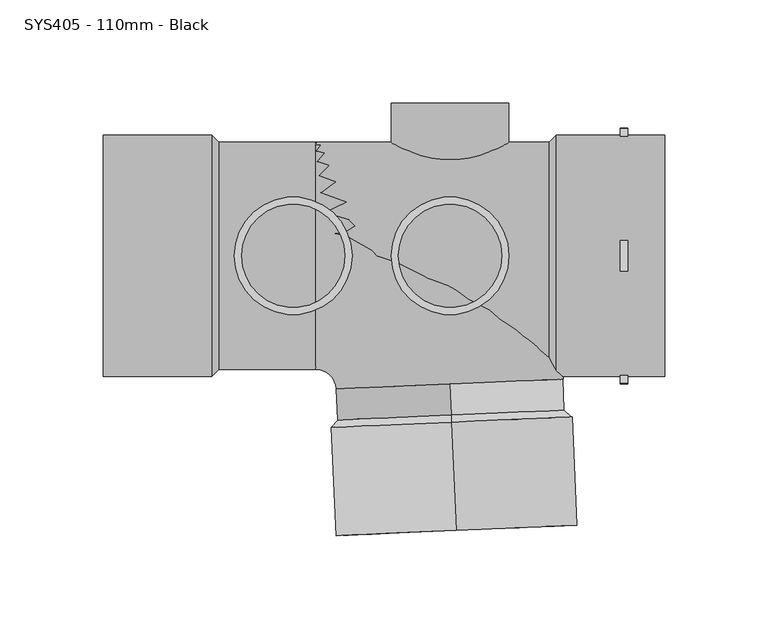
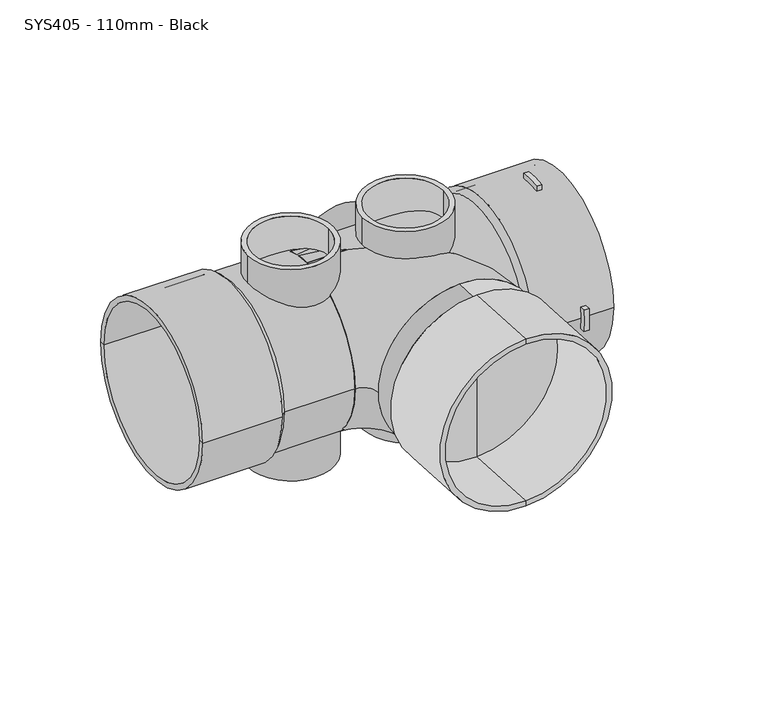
"""IFC4 building model written with IfcOpenShell, lengths in millimetres: pipe fitting geometry, MarleyPlumbingAndDrainage_PipeFitting_FiveBossBranch87-5 : SYS405 - 110mm - Black."""

from ifc_helpers import new_model, si_unit, point, frame, frame_2d, origin, origin_2d, place, context, project, spatial, polyline, circle_curve, ellipse_curve, trimmed, segment, composite_curve, outline, extrude, source, transform, mapped, element, save
from ifc_brep_helpers import plane_surface, cylinder_surface, revolved_surface, advanced_brep


def sys405_110mm_black_4771365e(model_context):
    return source(origin(), model_context, "Body", "SolidModel", [
        advanced_brep(
        [(-166.6907513, -58.5, 0.0), (-166.6907513, 58.5, 0.0), (-114.1907513, 58.5, 0.0), (-114.1907513, -58.5, 0.0), (-166.6907513, -55.0, 0.0), (-166.6907513, 55.0, 0.0), (-114.1907513, -55.0, 0.0), (-114.1907513, 55.0, 0.0), (-114.1907513, 0.0, 0.0), (-110.6907513, -55.0, 0.0), (-110.6907513, 55.0, 0.0), (-110.6907513, 0.0, 0.0)],
        [
            (0, 1, circle_curve(frame((-166.6907513, 0.0, 0.0), z_axis=(1.0, 0.0, 0.0), x_axis=(0.0, 1.0, 0.0)), 58.5)),
            (1, 2),
            (2, 3, circle_curve(frame((-114.1907513, 0.0, 0.0), z_axis=(-1.0, 0.0, 0.0), x_axis=(0.0, 1.0, 0.0)), 58.5)),
            (3, 0),
            (1, 0, circle_curve(frame((-166.6907513, 0.0, 0.0), z_axis=(1.0, 0.0, 0.0), x_axis=(0.0, 1.0, 0.0)), 58.5)),
            (3, 2, circle_curve(frame((-114.1907513, 0.0, 0.0), z_axis=(-1.0, 0.0, 0.0), x_axis=(0.0, 1.0, 0.0)), 58.5)),
            (4, 5, circle_curve(frame((-166.6907513, 0.0, 0.0), z_axis=(1.0, 0.0, 0.0), x_axis=(0.0, 1.0, 0.0)), 55.0)),
            (5, 1),
            (0, 4),
            (5, 4, circle_curve(frame((-166.6907513, 0.0, 0.0), z_axis=(1.0, 0.0, 0.0), x_axis=(0.0, 1.0, 0.0)), 55.0)),
            (6, 7, circle_curve(frame((-114.1907513, 0.0, 0.0), z_axis=(1.0, 0.0, 0.0), x_axis=(0.0, 1.0, 0.0)), 55.0)),
            (7, 5),
            (4, 6),
            (7, 6, circle_curve(frame((-114.1907513, 0.0, 0.0), z_axis=(1.0, 0.0, 0.0), x_axis=(0.0, 1.0, 0.0)), 55.0)),
            (8, 7),
            (6, 8),
            (9, 10, circle_curve(frame((-110.6907513, 0.0, 0.0), z_axis=(1.0, 0.0, 0.0), x_axis=(0.0, 1.0, 0.0)), 55.0)),
            (10, 11),
            (11, 9),
            (10, 9, circle_curve(frame((-110.6907513, 0.0, 0.0), z_axis=(1.0, 0.0, 0.0), x_axis=(0.0, 1.0, 0.0)), 55.0)),
            (2, 10),
            (9, 3),
        ],
        [
            cylinder_surface(frame((1970.8760368, 0.0, 0.0), z_axis=(-1.0, 0.0, 0.0), x_axis=(0.0, 1.0, 0.0)), 58.5),
            plane_surface(frame((-166.6907513, 0.0, 0.0), z_axis=(-1.0, 0.0, 0.0), x_axis=(0.0, 1.0, 0.0))),
            revolved_surface(polyline([(-166.69075129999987, 55.0, 0.0), (-114.19075129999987, 55.0, 0.0)]), (1970.8760368, 0.0, 0.0), (-1.0, 0.0, 0.0)),
            plane_surface(frame((-114.1907513, 0.0, 0.0), z_axis=(-1.0, 0.0, 0.0), x_axis=(0.0, 1.0, 0.0))),
            plane_surface(frame((-110.6907513, 0.0, 0.0), z_axis=(1.0, 0.0, 0.0), x_axis=(0.0, 1.0, 0.0))),
            revolved_surface(polyline([(-110.6907513, 55.0, 0.0), (-114.1907513, 58.5, 0.0)]), (1970.8760368, 0.0, 0.0), (-1.0, 0.0, 0.0)),
        ],
        [
            (0, [[1, 2, 3, 4]]),
            (0, [[5, -4, 6, -2]]),
            (1, [[7, 8, -1, 9]]),
            (1, [[10, -9, -5, -8]]),
            (2, [[11, 12, -7, 13]]),
            (2, [[14, -13, -10, -12]]),
            (3, [[15, -11, 16]]),
            (3, [[-16, -14, -15]]),
            (4, [[17, 18, 19]]),
            (4, [[20, -19, -18]]),
            (5, [[-3, 21, -17, 22]]),
            (5, [[-6, -22, -20, -21]]),
        ],
    ),
        advanced_brep(
        [(1.1473831, -62.1647398, 55.0), (1.1473831, -62.1647398, -55.0), (1.8016739, -77.1504631, -55.0), (1.8016739, -77.1504631, 55.0), (1.1473831, -62.1647398, 0.0), (1.8016739, -77.1504631, 0.0)],
        [
            (0, 1, circle_curve(frame((1.1473831, -62.1647398, 0.0), z_axis=(0.04361938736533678, -0.9990482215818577, 0.0), x_axis=(0.0, 0.0, -1.0000000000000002)), 55.0)),
            (1, 2),
            (2, 3, circle_curve(frame((1.8016739, -77.1504631, 0.0), z_axis=(-0.04361938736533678, 0.9990482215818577, 0.0), x_axis=(0.0, 0.0, -1.0000000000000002)), 55.0)),
            (3, 0),
            (1, 0, circle_curve(frame((1.1473831, -62.1647398, 0.0), z_axis=(0.04361938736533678, -0.9990482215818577, 0.0), x_axis=(0.0, 0.0, -1.0000000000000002)), 55.0)),
            (3, 2, circle_curve(frame((1.8016739, -77.1504631, 0.0), z_axis=(-0.04361938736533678, 0.9990482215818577, 0.0), x_axis=(0.0, 0.0, -1.0000000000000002)), 55.0)),
            (4, 1),
            (0, 4),
            (2, 5),
            (5, 3),
        ],
        [
            cylinder_surface(frame((-1.0631654, -11.5348565, 0.0), z_axis=(-0.04361938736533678, 0.9990482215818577, 0.0), x_axis=(0.0, 0.0, -1.0000000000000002)), 55.0),
            plane_surface(frame((1.1473831, -62.1647398, 0.0), z_axis=(-0.04361938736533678, 0.9990482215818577, 0.0), x_axis=(0.0, 0.0, -1.0))),
            plane_surface(frame((1.8016739, -77.1504631, 0.0), z_axis=(0.04361938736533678, -0.9990482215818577, 0.0), x_axis=(0.0, 0.0, -1.0))),
        ],
        [
            (0, [[1, 2, 3, 4]]),
            (0, [[5, -4, 6, -2]]),
            (1, [[7, -1, 8]]),
            (1, [[-8, -5, -7]]),
            (2, [[-3, 9, 10]]),
            (2, [[-6, -10, -9]]),
        ],
    ),
        advanced_brep(
        [(4.2443596, -133.0971636, -55.0), (4.2443596, -133.0971636, 55.0), (4.2443596, -133.0971636, 58.5), (4.2443596, -133.0971636, -58.5), (1.9543417, -80.6471319, 58.5), (1.9543417, -80.6471319, -58.5), (1.8016739, -77.1504631, 54.9860468), (1.8016739, -77.1504631, -54.9860468), (1.9543417, -80.6471319, -55.0), (1.9543417, -80.6471319, 55.0), (1.9543417, -80.6471319, 0.0), (1.8016739, -77.1504631, 0.0)],
        [
            (0, 1, circle_curve(frame((4.2443596, -133.0971636, 0.0), z_axis=(-0.04361938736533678, 0.9990482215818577, 0.0), x_axis=(0.0, 0.0, 1.0000000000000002)), 55.0)),
            (1, 2),
            (2, 3, circle_curve(frame((4.2443596, -133.0971636, 0.0), z_axis=(0.04361938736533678, -0.9990482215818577, 0.0), x_axis=(0.0, 0.0, 1.0000000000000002)), 58.5)),
            (3, 0),
            (1, 0, circle_curve(frame((4.2443596, -133.0971636, 0.0), z_axis=(-0.04361938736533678, 0.9990482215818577, 0.0), x_axis=(0.0, 0.0, 1.0000000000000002)), 55.0)),
            (3, 2, circle_curve(frame((4.2443596, -133.0971636, 0.0), z_axis=(0.04361938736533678, -0.9990482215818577, 0.0), x_axis=(0.0, 0.0, 1.0000000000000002)), 58.5)),
            (2, 4),
            (4, 5, circle_curve(frame((1.9543417, -80.6471319, 0.0), z_axis=(0.04361938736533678, -0.9990482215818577, 0.0), x_axis=(0.0, 0.0, 1.0000000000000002)), 58.5)),
            (5, 3),
            (5, 4, circle_curve(frame((1.9543417, -80.6471319, 0.0), z_axis=(0.04361938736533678, -0.9990482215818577, 0.0), x_axis=(0.0, 0.0, 1.0000000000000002)), 58.5)),
            (4, 6),
            (6, 7, circle_curve(frame((1.8016739, -77.1504631, 0.0), z_axis=(0.04361938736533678, -0.9990482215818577, 0.0), x_axis=(0.0, 0.0, 1.0000000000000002)), 54.9860468)),
            (7, 5),
            (7, 6, circle_curve(frame((1.8016739, -77.1504631, 0.0), z_axis=(0.04361938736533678, -0.9990482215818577, 0.0), x_axis=(0.0, 0.0, 1.0000000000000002)), 54.9860468)),
            (8, 9, circle_curve(frame((1.9543417, -80.6471319, 0.0), z_axis=(-0.04361938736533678, 0.9990482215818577, 0.0), x_axis=(0.0, 0.0, 1.0000000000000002)), 55.0)),
            (9, 1),
            (0, 8),
            (9, 8, circle_curve(frame((1.9543417, -80.6471319, 0.0), z_axis=(-0.04361938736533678, 0.9990482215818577, 0.0), x_axis=(0.0, 0.0, 1.0000000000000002)), 55.0)),
            (10, 9),
            (8, 10),
            (6, 11),
            (11, 7),
        ],
        [
            plane_surface(frame((4.2443596, -133.0971636, 0.0), z_axis=(0.04361938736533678, -0.9990482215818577, 0.0), x_axis=(0.0, 0.0, 1.0))),
            cylinder_surface(frame((-1.593666, 0.6156066, 0.0), z_axis=(0.04361938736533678, -0.9990482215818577, 0.0), x_axis=(0.0, 0.0, 1.0000000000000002)), 58.5),
            revolved_surface(polyline([(1.8016739, -77.1504631, 54.9860468), (1.9543417, -80.6471319, 58.5)]), (-1.593666, 0.6156066, 0.0), (0.04361938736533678, -0.9990482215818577, 0.0)),
            revolved_surface(polyline([(4.244359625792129, -133.09716359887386, 55.000000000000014), (1.954341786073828, -80.64713189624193, 55.000000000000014)]), (-1.593666, 0.6156066, 0.0), (0.04361938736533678, -0.9990482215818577, 0.0)),
            plane_surface(frame((1.9543417, -80.6471319, 0.0), z_axis=(0.04361938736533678, -0.9990482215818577, 0.0), x_axis=(0.0, 0.0, 1.0))),
            plane_surface(frame((1.8016739, -77.1504631, 0.0), z_axis=(-0.04361938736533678, 0.9990482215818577, 0.0), x_axis=(0.0, 0.0, 1.0))),
        ],
        [
            (0, [[1, 2, 3, 4]]),
            (0, [[5, -4, 6, -2]]),
            (1, [[-3, 7, 8, 9]]),
            (1, [[-6, -9, 10, -7]]),
            (2, [[-8, 11, 12, 13]]),
            (2, [[-10, -13, 14, -11]]),
            (3, [[15, 16, -1, 17]]),
            (3, [[18, -17, -5, -16]]),
            (4, [[19, -15, 20]]),
            (4, [[-20, -18, -19]]),
            (5, [[-12, 21, 22]]),
            (5, [[-14, -22, -21]]),
        ],
    ),
        advanced_brep(
        [(-63.7907513, -55.0, 0.0), (-63.7907513, 55.0, 0.0), (-53.8002691, -64.5638061, 0.0), (56.0950353, -59.7656735, 0.0)],
        [
            (0, 1, circle_curve(frame((-63.7907513, 0.0, 0.0), z_axis=(-1.0, 0.0, 0.0), x_axis=(0.0, 1.0, 0.0)), 55.0)),
            (1, 0, circle_curve(frame((-63.7907513, 0.0, 0.0), z_axis=(-1.0, 0.0, 0.0), x_axis=(0.0, 1.0, 0.0)), 55.0)),
            (2, 3, circle_curve(frame((1.1473831, -62.1647398, 0.0), z_axis=(0.0436193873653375, -0.9990482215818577, 0.0), x_axis=(0.9990482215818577, 0.0436193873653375, 0.0)), 55.0)),
            (3, 2, circle_curve(frame((1.1473831, -62.1647398, 0.0), z_axis=(0.0436193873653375, -0.9990482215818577, 0.0), x_axis=(0.9990482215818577, 0.0436193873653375, 0.0)), 55.0)),
            (3, 1, circle_curve(frame((-63.7907513, -65.0, 0.0), z_axis=(0.0, 0.0, 1.0), x_axis=(0.0, 1.0, 0.0)), 120.0)),
            (0, 2, circle_curve(frame((-63.7907513, -65.0, 0.0), z_axis=(0.0, 0.0, -1.0), x_axis=(0.0, 1.0, 0.0)), 10.0)),
        ],
        [
            plane_surface(frame((-63.7907513, 0.0, 0.0), z_axis=(-1.0, 0.0, 0.0), x_axis=(0.0, 0.0, 1.0))),
            plane_surface(frame((1.1473831, -62.1647398, 0.0), z_axis=(0.0436193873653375, -0.9990482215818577, 0.0), x_axis=(0.0, 0.0, 1.0))),
            revolved_surface(trimmed(ellipse_curve(frame((-63.7907513, 0.0, 0.0), z_axis=(-1.0, 0.0, 0.0), x_axis=(0.0, 1.0, 0.0)), 55.0, 55.0), [point((-63.7907513, -55.0, 0.0))], [point((-63.7907513, 55.0, 0.0))], True, "CARTESIAN"), (-63.7907513, -65.0, 0.0), (0.0, 0.0, -1.0)),
            revolved_surface(trimmed(ellipse_curve(frame((-63.7907513, 0.0, 0.0), z_axis=(-1.0, 0.0, 0.0), x_axis=(0.0, 1.0, 0.0)), 55.0, 55.0), [point((-63.7907513, 55.0, 0.0))], [point((-63.7907513, -55.0, 0.0))], True, "CARTESIAN"), (-63.7907513, -65.0, 0.0), (0.0, 0.0, -1.0)),
        ],
        [
            (0, [[1, 2]]),
            (1, [[3, 4]]),
            (2, [[5, -1, 6, -4]]),
            (3, [[-6, -2, -5, -3]]),
        ],
    ),
        extrude(outline(composite_curve([segment(trimmed(circle_curve(frame_2d((0.0, 1.3092487)), 28.5), [point((0.0, -27.1907513))], [point((0.0, 29.8092487))], False, "CARTESIAN"), True, "CONTINUOUS"), segment(trimmed(circle_curve(frame_2d((0.0, 1.3092487)), 28.5), [point((0.0, 29.8092487))], [point((0.0, -27.1907513))], False, "CARTESIAN"), True, "CONTINUOUS")], self_intersect=False), holes=[composite_curve([segment(trimmed(circle_curve(frame_2d((0.0, 1.3092487)), 25.0), [point((0.0, -23.6907513))], [point((0.0, 26.3092487))], True, "CARTESIAN"), True, "CONTINUOUS"), segment(trimmed(circle_curve(frame_2d((0.0, 1.3092487)), 25.0), [point((0.0, 26.3092487))], [point((0.0, -23.6907513))], True, "CARTESIAN"), True, "CONTINUOUS")], self_intersect=False)]), frame((0.0, 0.0, 0.0), z_axis=(0.0, 1.0, 0.0), x_axis=(0.0, 0.0, 1.0)), (0.0, 0.0, 1.0), 74.0),
        extrude(outline(composite_curve([segment(polyline([(-58.0172388, -7.5), (-61.5446992, -7.5)]), True, "CONTINUOUS"), segment(trimmed(circle_curve(origin_2d(), 62.0), [point((-61.5446992, -7.5))], [point((-61.5446992, 7.5))], False, "CARTESIAN"), True, "CONTINUOUS"), segment(polyline([(-61.5446992, 7.5), (-58.0172388, 7.5)]), True, "CONTINUOUS"), segment(trimmed(circle_curve(origin_2d(), 58.5), [point((-58.0172388, 7.5))], [point((-58.0172388, -7.5))], True, "CARTESIAN"), True, "CONTINUOUS")], self_intersect=False)), frame((83.8092487, 0.0, 0.0), z_axis=(1.0, 0.0, 0.0), x_axis=(0.0, 1.0, 0.0)), (0.0, 0.0, 1.0), 3.5),
        extrude(outline(composite_curve([segment(trimmed(circle_curve(origin_2d(), 58.5), [point((7.5, 58.0172388))], [point((-7.5, 58.0172388))], True, "CARTESIAN"), True, "CONTINUOUS"), segment(polyline([(-7.5, 58.0172388), (-7.5, 61.5446992)]), True, "CONTINUOUS"), segment(trimmed(circle_curve(origin_2d(), 62.0), [point((-7.5, 61.5446992))], [point((7.5, 61.5446992))], False, "CARTESIAN"), True, "CONTINUOUS"), segment(polyline([(7.5, 61.5446992), (7.5, 58.0172388)]), True, "CONTINUOUS")], self_intersect=False)), frame((83.8092487, 0.0, 0.0), z_axis=(1.0, 0.0, 0.0), x_axis=(0.0, 1.0, 0.0)), (0.0, 0.0, 1.0), 3.5),
        extrude(outline(composite_curve([segment(polyline([(58.0172388, 7.5), (61.5446992, 7.5)]), True, "CONTINUOUS"), segment(trimmed(circle_curve(origin_2d(), 62.0), [point((61.5446992, 7.5))], [point((61.5446992, -7.5))], False, "CARTESIAN"), True, "CONTINUOUS"), segment(polyline([(61.5446992, -7.5), (58.0172388, -7.5)]), True, "CONTINUOUS"), segment(trimmed(circle_curve(origin_2d(), 58.5), [point((58.0172388, -7.5))], [point((58.0172388, 7.5))], True, "CARTESIAN"), True, "CONTINUOUS")], self_intersect=False)), frame((83.8092487, 0.0, 0.0), z_axis=(1.0, 0.0, 0.0), x_axis=(0.0, 1.0, 0.0)), (0.0, 0.0, 1.0), 3.5),
        extrude(outline(composite_curve([segment(polyline([(-7.5, -61.5446992), (-7.5, -58.0172388)]), True, "CONTINUOUS"), segment(trimmed(circle_curve(origin_2d(), 58.5), [point((-7.5, -58.0172388))], [point((7.5, -58.0172388))], True, "CARTESIAN"), True, "CONTINUOUS"), segment(polyline([(7.5, -58.0172388), (7.5, -61.5446992)]), True, "CONTINUOUS"), segment(trimmed(circle_curve(origin_2d(), 62.0), [point((7.5, -61.5446992))], [point((-7.5, -61.5446992))], False, "CARTESIAN"), True, "CONTINUOUS")], self_intersect=False)), frame((83.8092487, 0.0, 0.0), z_axis=(1.0, 0.0, 0.0), x_axis=(0.0, 1.0, 0.0)), (0.0, 0.0, 1.0), 3.5),
        extrude(outline(composite_curve([segment(trimmed(circle_curve(frame_2d((1.3092487, 0.0)), 28.5), [point((-27.1907513, 0.0))], [point((29.8092487, 0.0))], False, "CARTESIAN"), True, "CONTINUOUS"), segment(trimmed(circle_curve(frame_2d((1.3092487, 0.0)), 28.5), [point((29.8092487, 0.0))], [point((-27.1907513, 0.0))], False, "CARTESIAN"), True, "CONTINUOUS")], self_intersect=False), holes=[composite_curve([segment(trimmed(circle_curve(frame_2d((1.3092487, 0.0)), 25.0), [point((-23.6907513, 0.0))], [point((26.3092487, 0.0))], True, "CARTESIAN"), True, "CONTINUOUS"), segment(trimmed(circle_curve(frame_2d((1.3092487, 0.0)), 25.0), [point((26.3092487, 0.0))], [point((-23.6907513, 0.0))], True, "CARTESIAN"), True, "CONTINUOUS")], self_intersect=False)]), frame((0.0, 0.0, -74.0), z_axis=(0.0, 0.0, 1.0), x_axis=(1.0, 0.0, 0.0)), (0.0, 0.0, 1.0), 148.0),
        extrude(outline(composite_curve([segment(trimmed(circle_curve(frame_2d((-74.6907513, 0.0)), 28.5), [point((-103.1907513, 0.0))], [point((-46.1907513, 0.0))], False, "CARTESIAN"), True, "CONTINUOUS"), segment(trimmed(circle_curve(frame_2d((-74.6907513, 0.0)), 28.5), [point((-46.1907513, 0.0))], [point((-103.1907513, 0.0))], False, "CARTESIAN"), True, "CONTINUOUS")], self_intersect=False), holes=[composite_curve([segment(trimmed(circle_curve(frame_2d((-74.6907513, 0.0)), 25.0), [point((-99.6907513, 0.0))], [point((-49.6907513, 0.0))], True, "CARTESIAN"), True, "CONTINUOUS"), segment(trimmed(circle_curve(frame_2d((-74.6907513, 0.0)), 25.0), [point((-49.6907513, 0.0))], [point((-99.6907513, 0.0))], True, "CARTESIAN"), True, "CONTINUOUS")], self_intersect=False)]), frame((0.0, 0.0, -74.0), z_axis=(0.0, 0.0, 1.0), x_axis=(1.0, 0.0, 0.0)), (0.0, 0.0, 1.0), 148.0),
        advanced_brep(
        [(52.8092487, -55.0, 0.0), (52.8092487, 55.0, 0.0), (52.8092487, 0.0, 0.0), (105.3092487, -55.0, 0.0), (105.3092487, 55.0, 0.0), (105.3092487, -58.5, 0.0), (105.3092487, 58.5, 0.0), (52.8092487, -58.5, 0.0), (52.8092487, 58.5, 0.0), (49.3092487, -55.0, 0.0), (49.3092487, 55.0, 0.0), (-114.1907513, -55.0, 0.0), (-114.1907513, 55.0, 0.0), (-114.1907513, 0.0, 0.0)],
        [
            (0, 1, circle_curve(frame((52.8092487, 0.0, 0.0), z_axis=(1.0, 0.0, 0.0), x_axis=(0.0, 1.0, 0.0)), 55.0)),
            (1, 2),
            (2, 0),
            (1, 0, circle_curve(frame((52.8092487, 0.0, 0.0), z_axis=(1.0, 0.0, 0.0), x_axis=(0.0, 1.0, 0.0)), 55.0)),
            (3, 4, circle_curve(frame((105.3092487, 0.0, 0.0), z_axis=(1.0, 0.0, 0.0), x_axis=(0.0, 1.0, 0.0)), 55.0)),
            (4, 1),
            (0, 3),
            (4, 3, circle_curve(frame((105.3092487, 0.0, 0.0), z_axis=(1.0, 0.0, 0.0), x_axis=(0.0, 1.0, 0.0)), 55.0)),
            (5, 6, circle_curve(frame((105.3092487, 0.0, 0.0), z_axis=(1.0, 0.0, 0.0), x_axis=(0.0, 1.0, 0.0)), 58.5)),
            (6, 4),
            (3, 5),
            (6, 5, circle_curve(frame((105.3092487, 0.0, 0.0), z_axis=(1.0, 0.0, 0.0), x_axis=(0.0, 1.0, 0.0)), 58.5)),
            (7, 8, circle_curve(frame((52.8092487, 0.0, 0.0), z_axis=(1.0, 0.0, 0.0), x_axis=(0.0, 1.0, 0.0)), 58.5)),
            (8, 6),
            (5, 7),
            (8, 7, circle_curve(frame((52.8092487, 0.0, 0.0), z_axis=(1.0, 0.0, 0.0), x_axis=(0.0, 1.0, 0.0)), 58.5)),
            (9, 10, circle_curve(frame((49.3092487, 0.0, 0.0), z_axis=(1.0, 0.0, 0.0), x_axis=(0.0, 1.0, 0.0)), 55.0)),
            (10, 8),
            (7, 9),
            (10, 9, circle_curve(frame((49.3092487, 0.0, 0.0), z_axis=(1.0, 0.0, 0.0), x_axis=(0.0, 1.0, 0.0)), 55.0)),
            (11, 12, circle_curve(frame((-114.1907513, 0.0, 0.0), z_axis=(1.0, 0.0, 0.0), x_axis=(0.0, 1.0, 0.0)), 55.0)),
            (12, 10),
            (9, 11),
            (12, 11, circle_curve(frame((-114.1907513, 0.0, 0.0), z_axis=(1.0, 0.0, 0.0), x_axis=(0.0, 1.0, 0.0)), 55.0)),
            (13, 12),
            (11, 13),
        ],
        [
            plane_surface(frame((52.8092487, 0.0, 0.0), z_axis=(1.0, 0.0, 0.0), x_axis=(0.0, 1.0, 0.0))),
            revolved_surface(polyline([(52.80924870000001, 55.0, 0.0), (105.30924870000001, 55.0, 0.0)]), (-264.1239632, 0.0, 0.0), (-1.0, 0.0, 0.0)),
            plane_surface(frame((105.3092487, 0.0, 0.0), z_axis=(1.0, 0.0, 0.0), x_axis=(0.0, 1.0, 0.0))),
            cylinder_surface(frame((-264.1239632, 0.0, 0.0), z_axis=(-1.0, 0.0, 0.0), x_axis=(0.0, 1.0, 0.0)), 58.5),
            revolved_surface(polyline([(52.8092487, 58.5, 0.0), (49.3092487, 55.0, 0.0)]), (-264.1239632, 0.0, 0.0), (-1.0, 0.0, 0.0)),
            cylinder_surface(frame((-264.1239632, 0.0, 0.0), z_axis=(-1.0, 0.0, 0.0), x_axis=(0.0, 1.0, 0.0)), 55.0),
            plane_surface(frame((-114.1907513, 0.0, 0.0), z_axis=(-1.0, 0.0, 0.0), x_axis=(0.0, 1.0, 0.0))),
        ],
        [
            (0, [[1, 2, 3]]),
            (0, [[4, -3, -2]]),
            (1, [[5, 6, -1, 7]]),
            (1, [[8, -7, -4, -6]]),
            (2, [[9, 10, -5, 11]]),
            (2, [[12, -11, -8, -10]]),
            (3, [[13, 14, -9, 15]]),
            (3, [[16, -15, -12, -14]]),
            (4, [[17, 18, -13, 19]]),
            (4, [[20, -19, -16, -18]]),
            (5, [[21, 22, -17, 23]]),
            (5, [[24, -23, -20, -22]]),
            (6, [[25, -21, 26]]),
            (6, [[-26, -24, -25]]),
        ],
    ),
    ])


if __name__ == "__main__":
    model = new_model("IFC4")
    model_context = context("Model", 3, world=origin())
    ifc_project = project(units=[si_unit("LENGTHUNIT", "METRE", prefix="MILLI")], contexts=[model_context])
    site = spatial("IfcSite", under=ifc_project)
    building = spatial("IfcBuilding", under=site)
    placement = place(None, origin())
    sys405_110mm_black_shape = sys405_110mm_black_4771365e(model_context)
    element("IfcPipeFitting", 1, ObjectType="MarleyPlumbingAndDrainage_PipeFitting_FiveBossBranch87-5 : SYS405 - 110mm - Black", at=placement, inside=building, context=model_context, shape_type="MappedRepresentation", body=[
        mapped(sys405_110mm_black_shape, transform((0.0, 0.0, 0.0), x_axis=(1.0, 0.0, 0.0), y_axis=(0.0, 1.0, 0.0), z_axis=(0.0, 0.0, 1.0))),
    ])
    save(model, "model.ifc")
